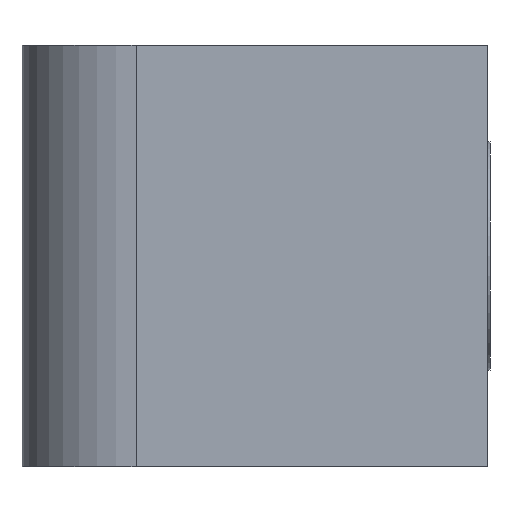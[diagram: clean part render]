
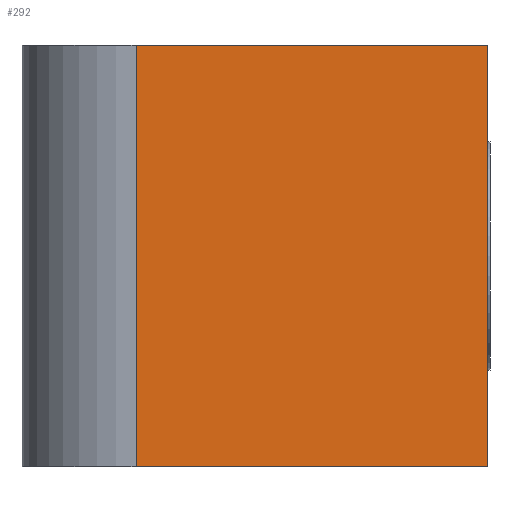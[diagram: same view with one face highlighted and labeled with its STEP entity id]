
A CAD part, front view. The second image highlights one B-rep face of the part: STEP entity #292.
In plain terms, the highlighted planar face has unit normal (0, -1, 0).
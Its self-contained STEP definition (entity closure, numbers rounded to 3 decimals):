
#3 = ORIENTED_EDGE ( 'NONE', *, *, #136, .T. ) ;
#13 = LINE ( 'NONE', #219, #133 ) ;
#29 = CARTESIAN_POINT ( 'NONE',  ( 70., -22.75, 0. ) ) ;
#37 = CARTESIAN_POINT ( 'NONE',  ( 0., -22.75, -84. ) ) ;
#39 = DIRECTION ( 'NONE',  ( 0., 0., 1. ) ) ;
#40 = CARTESIAN_POINT ( 'NONE',  ( 0., -22.75, 0. ) ) ;
#46 = VECTOR ( 'NONE', #57, 1000. ) ;
#57 = DIRECTION ( 'NONE',  ( 1., 0., 0. ) ) ;
#58 = LINE ( 'NONE', #160, #137 ) ;
#64 = CARTESIAN_POINT ( 'NONE',  ( 70., -22.75, -84. ) ) ;
#65 = EDGE_CURVE ( 'NONE', #72, #273, #166, .T. ) ;
#72 = VERTEX_POINT ( 'NONE', #104 ) ;
#74 = PLANE ( 'NONE',  #270 ) ;
#104 = CARTESIAN_POINT ( 'NONE',  ( 0., -22.75, 0. ) ) ;
#133 = VECTOR ( 'NONE', #39, 1000. ) ;
#136 = EDGE_CURVE ( 'NONE', #182, #273, #58, .T. ) ;
#137 = VECTOR ( 'NONE', #259, 1000. ) ;
#149 = CARTESIAN_POINT ( 'NONE',  ( 0., -22.75, -84. ) ) ;
#152 = VERTEX_POINT ( 'NONE', #37 ) ;
#160 = CARTESIAN_POINT ( 'NONE',  ( 70., -22.75, -84. ) ) ;
#163 = EDGE_CURVE ( 'NONE', #152, #72, #13, .T. ) ;
#166 = LINE ( 'NONE', #40, #46 ) ;
#174 = EDGE_LOOP ( 'NONE', ( #298, #293, #207, #3 ) ) ;
#177 = FACE_OUTER_BOUND ( 'NONE', #174, .T. ) ;
#181 = DIRECTION ( 'NONE',  ( 1., 0., 0. ) ) ;
#182 = VERTEX_POINT ( 'NONE', #64 ) ;
#203 = VECTOR ( 'NONE', #181, 1000. ) ;
#207 = ORIENTED_EDGE ( 'NONE', *, *, #236, .T. ) ;
#219 = CARTESIAN_POINT ( 'NONE',  ( 0., -22.75, -84. ) ) ;
#235 = DIRECTION ( 'NONE',  ( 0., -1., 0. ) ) ;
#236 = EDGE_CURVE ( 'NONE', #152, #182, #250, .T. ) ;
#250 = LINE ( 'NONE', #149, #203 ) ;
#259 = DIRECTION ( 'NONE',  ( 0., 0., 1. ) ) ;
#270 = AXIS2_PLACEMENT_3D ( 'NONE', #324, #235, #320 ) ;
#273 = VERTEX_POINT ( 'NONE', #29 ) ;
#292 = ADVANCED_FACE ( 'NONE', ( #177 ), #74, .T. ) ;
#293 = ORIENTED_EDGE ( 'NONE', *, *, #163, .F. ) ;
#298 = ORIENTED_EDGE ( 'NONE', *, *, #65, .F. ) ;
#320 = DIRECTION ( 'NONE',  ( 0., 0., -1. ) ) ;
#324 = CARTESIAN_POINT ( 'NONE',  ( 0., -22.75, -84. ) ) ;
